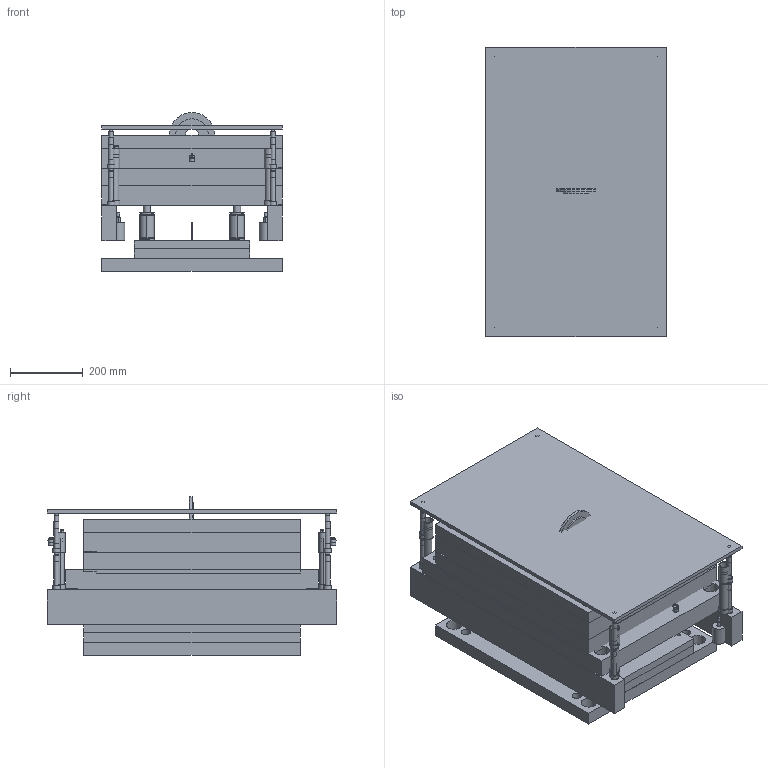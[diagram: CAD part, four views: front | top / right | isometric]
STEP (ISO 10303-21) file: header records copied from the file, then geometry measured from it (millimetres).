
FILE_DESCRIPTION(('Open CASCADE Model'),'2;1');
FILE_NAME('Open CASCADE Shape Model','2026-07-13T21:37:46',('Author'),( 'Open CASCADE'),'Open CASCADE STEP processor 7.9','Open CASCADE 7.9' ,'Unknown');
FILE_SCHEMA(('AUTOMOTIVE_DESIGN { 1 0 10303 214 1 1 1 1 }'));
Length unit declared in the file: millimetre
Products named in the file (112): mold_builder_assembly; Fixed_Half; cavity_plate; clamp_fixed; guide_pin_0; guide_pin_1; guide_pin_2; guide_pin_3; guide_bushing_0; guide_bushing_1; guide_bushing_2; guide_bushing_3; screw_top_0; screw_top_1; screw_top_2; screw_top_3; dowel_pin_0; dowel_pin_1; insulation_plate; sprue_bushing; locating_ring; gate_0; slide_1_K2528; Moving_Half; clamp_moving; support_plate; core_plate; spacer_block; support_pillar_0; support_pillar_1; support_pillar_2; support_pillar_3; screw_bot_0; screw_bot_1; screw_bot_2; screw_bot_3; cooling_channel_0; cooling_channel_1; cooling_channel_2; cooling_channel_3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
Assembly tree (111 placements, depth 3):
  mold_builder_assembly
    Fixed_Half
      cavity_plate
      clamp_fixed
      guide_pin_0
      guide_pin_1
      guide_pin_2
      guide_pin_3
      guide_bushing_0
      guide_bushing_1
      guide_bushing_2
      guide_bushing_3
      screw_top_0
      screw_top_1
      screw_top_2
      screw_top_3
      dowel_pin_0
      dowel_pin_1
      insulation_plate
      sprue_bushing
      locating_ring
      gate_0
      slide_1_K2528
    Moving_Half
      clamp_moving
      support_plate
      core_plate
      spacer_block
      support_pillar_0
      support_pillar_1
      support_pillar_2
      support_pillar_3
      screw_bot_0
      screw_bot_1
      screw_bot_2
      screw_bot_3
      cooling_channel_0
      cooling_channel_1
      cooling_channel_2
      cooling_channel_3
      cooling_channel_4
      cooling_channel_5
      cooling_channel_6
      cooling_channel_7
      cooling_channel_8
      cooling_channel_9
      cooling_channel_10
      cooling_channel_11
      cooling_channel_12
      cooling_channel_13
      cooling_channel_14
      cooling_channel_15
      cooling_channel_16
      cooling_channel_17
      cooling_uturn_0
      cooling_uturn_1
      cooling_uturn_2
      cooling_uturn_3
      cooling_uturn_4
      cooling_uturn_5
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Bounding box: 496 x 796 x 437.5 mm (x, y, z)
Volume: 93526266.6 mm3; surface area: 6691215.7 mm2
Topology: 194 solids, 194 shells, 4821 faces, 11679 edges, 7466 vertices
Faces by surface type: cylinder 2115, plane 1666, bspline 457, cone 343, torus 212, sphere 21, extrusion 7
Full cylindrical faces by diameter (mm): 4 x5, 6 x35, 8.5 x4, 9.728 x2, 10.2 x8, 11.4 x2, 11.98 x8, 12 x18, 13.5 x8, 14 x8, 15 x2, 16 x2, 16.6 x4, 18 x20, 20 x12, 20.1 x12, 24.1 x4, 26 x8, 28 x10, 42 x20, 48 x8, 90 x1, 125 x1
Entity records: 347569 total; most frequent: CARTESIAN_POINT 122497, DIRECTION 39618, ORIENTED_EDGE 23246, PCURVE 23246, DEFINITIONAL_REPRESENTATION 23246, VECTOR 18644, LINE 18637, EDGE_CURVE 11623
